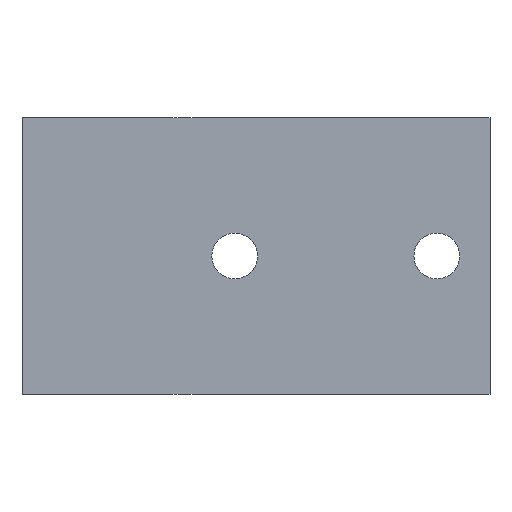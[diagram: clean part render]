
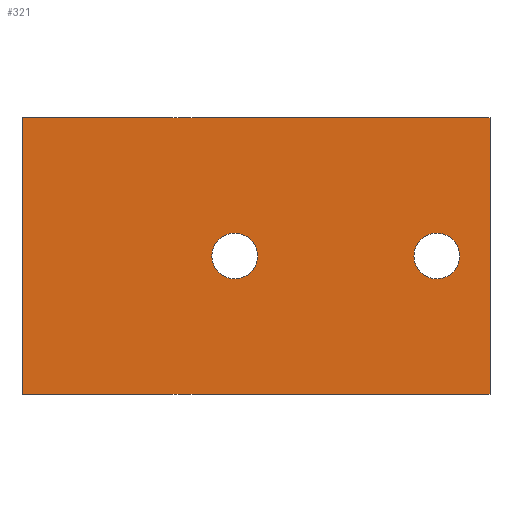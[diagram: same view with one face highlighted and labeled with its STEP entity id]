
A CAD part, left-side view. The second image highlights one B-rep face of the part: STEP entity #321.
In plain terms, the highlighted planar face has unit normal (-1, 0, 0).
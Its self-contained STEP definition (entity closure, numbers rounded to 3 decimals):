
#22=FACE_BOUND('',#75,.T.);
#23=FACE_BOUND('',#76,.T.);
#32=PLANE('',#376);
#50=FACE_OUTER_BOUND('',#74,.T.);
#74=EDGE_LOOP('',(#284,#285,#286,#287));
#75=EDGE_LOOP('',(#288));
#76=EDGE_LOOP('',(#289));
#81=LINE('',#488,#105);
#86=LINE('',#501,#110);
#99=LINE('',#574,#123);
#101=LINE('',#578,#125);
#105=VECTOR('',#391,10.);
#110=VECTOR('',#402,10.);
#123=VECTOR('',#465,10.);
#125=VECTOR('',#471,10.);
#141=CIRCLE('',#371,2.15);
#142=CIRCLE('',#373,2.15);
#147=VERTEX_POINT('',#485);
#148=VERTEX_POINT('',#487);
#153=VERTEX_POINT('',#499);
#168=VERTEX_POINT('',#564);
#169=VERTEX_POINT('',#568);
#170=VERTEX_POINT('',#572);
#176=EDGE_CURVE('',#148,#147,#81,.T.);
#183=EDGE_CURVE('',#153,#147,#86,.T.);
#205=EDGE_CURVE('',#168,#168,#141,.T.);
#207=EDGE_CURVE('',#169,#169,#142,.T.);
#210=EDGE_CURVE('',#170,#153,#99,.T.);
#212=EDGE_CURVE('',#148,#170,#101,.T.);
#284=ORIENTED_EDGE('',*,*,#212,.F.);
#285=ORIENTED_EDGE('',*,*,#176,.T.);
#286=ORIENTED_EDGE('',*,*,#183,.F.);
#287=ORIENTED_EDGE('',*,*,#210,.F.);
#288=ORIENTED_EDGE('',*,*,#205,.T.);
#289=ORIENTED_EDGE('',*,*,#207,.T.);
#321=ADVANCED_FACE('',(#50,#22,#23),#32,.T.);
#371=AXIS2_PLACEMENT_3D('',#565,#454,#455);
#373=AXIS2_PLACEMENT_3D('',#569,#459,#460);
#376=AXIS2_PLACEMENT_3D('',#577,#469,#470);
#391=DIRECTION('',(0.,0.,-1.));
#402=DIRECTION('',(0.,1.,0.));
#454=DIRECTION('center_axis',(1.,0.,0.));
#455=DIRECTION('ref_axis',(0.,0.,1.));
#459=DIRECTION('center_axis',(1.,0.,0.));
#460=DIRECTION('ref_axis',(0.,0.,1.));
#465=DIRECTION('',(0.,0.,-1.));
#469=DIRECTION('center_axis',(-1.,0.,0.));
#470=DIRECTION('ref_axis',(0.,1.,0.));
#471=DIRECTION('',(0.,-1.,0.));
#485=CARTESIAN_POINT('',(0.,0.,-26.));
#487=CARTESIAN_POINT('',(0.,0.,0.));
#488=CARTESIAN_POINT('',(0.,0.,0.));
#499=CARTESIAN_POINT('',(0.,-44.,-26.));
#501=CARTESIAN_POINT('',(0.,0.,-26.));
#564=CARTESIAN_POINT('',(0.,-20.,-15.15));
#565=CARTESIAN_POINT('Origin',(0.,-20.,-13.));
#568=CARTESIAN_POINT('',(0.,-39.,-15.15));
#569=CARTESIAN_POINT('Origin',(0.,-39.,-13.));
#572=CARTESIAN_POINT('',(0.,-44.,0.));
#574=CARTESIAN_POINT('',(0.,-44.,0.));
#577=CARTESIAN_POINT('Origin',(0.,-44.,0.));
#578=CARTESIAN_POINT('',(0.,0.,0.));
